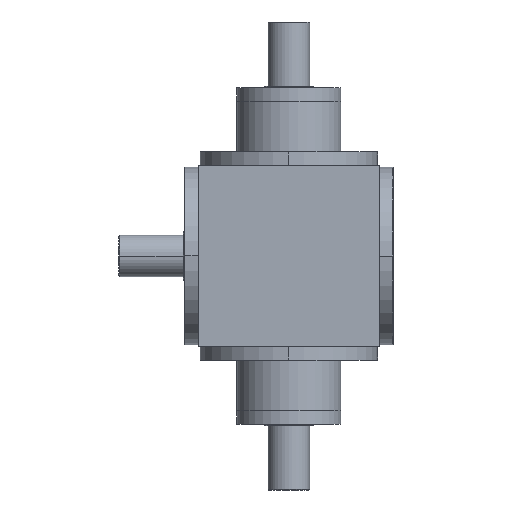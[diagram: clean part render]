
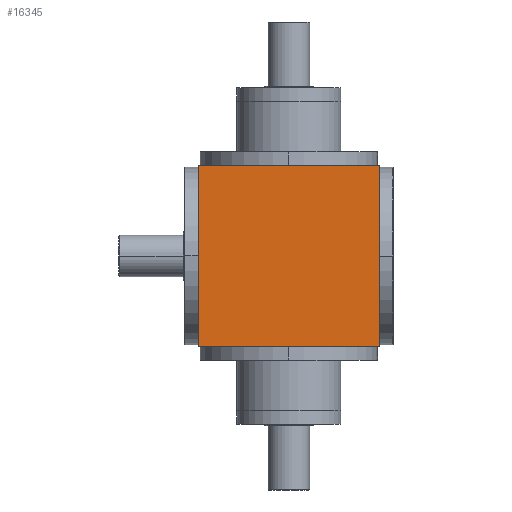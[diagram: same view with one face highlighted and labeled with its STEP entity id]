
A CAD part, front view. The second image highlights one B-rep face of the part: STEP entity #16345.
In plain terms, the highlighted planar face has unit normal (0, -1, 0).
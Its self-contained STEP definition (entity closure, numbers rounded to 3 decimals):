
#756 = DIRECTION ( 'NONE',  ( 0., 0., 1. ) ) ;
#1286 = FACE_OUTER_BOUND ( 'NONE', #24235, .T. ) ;
#1455 = CARTESIAN_POINT ( 'NONE',  ( 120., -120., -119.9 ) ) ;
#1639 = VERTEX_POINT ( 'NONE', #4127 ) ;
#2205 = VERTEX_POINT ( 'NONE', #12427 ) ;
#2213 = AXIS2_PLACEMENT_3D ( 'NONE', #23719, #12266, #756 ) ;
#3913 = VECTOR ( 'NONE', #7272, 1000. ) ;
#3946 = DIRECTION ( 'NONE',  ( 0., 0., -1. ) ) ;
#4127 = CARTESIAN_POINT ( 'NONE',  ( 119.9, -120., 119.9 ) ) ;
#4523 = PLANE ( 'NONE',  #2213 ) ;
#6097 = VERTEX_POINT ( 'NONE', #9734 ) ;
#6120 = LINE ( 'NONE', #13535, #7343 ) ;
#6200 = EDGE_CURVE ( 'NONE', #1639, #2205, #16360, .T. ) ;
#6289 = VECTOR ( 'NONE', #22154, 1000. ) ;
#7272 = DIRECTION ( 'NONE',  ( 1., 0., 0. ) ) ;
#7343 = VECTOR ( 'NONE', #3946, 1000. ) ;
#9734 = CARTESIAN_POINT ( 'NONE',  ( 119.9, -120., -119.9 ) ) ;
#10078 = CARTESIAN_POINT ( 'NONE',  ( -120., -120., 119.9 ) ) ;
#10329 = ORIENTED_EDGE ( 'NONE', *, *, #16149, .T. ) ;
#11359 = CARTESIAN_POINT ( 'NONE',  ( -119.9, -120., -119.9 ) ) ;
#12266 = DIRECTION ( 'NONE',  ( 0., 1., 0. ) ) ;
#12427 = CARTESIAN_POINT ( 'NONE',  ( -119.9, -120., 119.9 ) ) ;
#12950 = EDGE_CURVE ( 'NONE', #6097, #1639, #21583, .T. ) ;
#13535 = CARTESIAN_POINT ( 'NONE',  ( -119.9, -120., 120. ) ) ;
#16149 = EDGE_CURVE ( 'NONE', #2205, #20391, #6120, .T. ) ;
#16345 = ADVANCED_FACE ( 'NONE', ( #1286 ), #4523, .F. ) ;
#16360 = LINE ( 'NONE', #10078, #20822 ) ;
#19085 = EDGE_CURVE ( 'NONE', #20391, #6097, #20389, .T. ) ;
#20389 = LINE ( 'NONE', #1455, #3913 ) ;
#20391 = VERTEX_POINT ( 'NONE', #11359 ) ;
#20822 = VECTOR ( 'NONE', #23457, 1000. ) ;
#21083 = ORIENTED_EDGE ( 'NONE', *, *, #6200, .T. ) ;
#21397 = ORIENTED_EDGE ( 'NONE', *, *, #19085, .T. ) ;
#21583 = LINE ( 'NONE', #24153, #6289 ) ;
#22154 = DIRECTION ( 'NONE',  ( 0., 0., 1. ) ) ;
#23457 = DIRECTION ( 'NONE',  ( -1., 0., 0. ) ) ;
#23719 = CARTESIAN_POINT ( 'NONE',  ( 120., -120., 120. ) ) ;
#24088 = ORIENTED_EDGE ( 'NONE', *, *, #12950, .T. ) ;
#24153 = CARTESIAN_POINT ( 'NONE',  ( 119.9, -120., 120. ) ) ;
#24235 = EDGE_LOOP ( 'NONE', ( #21397, #24088, #21083, #10329 ) ) ;
